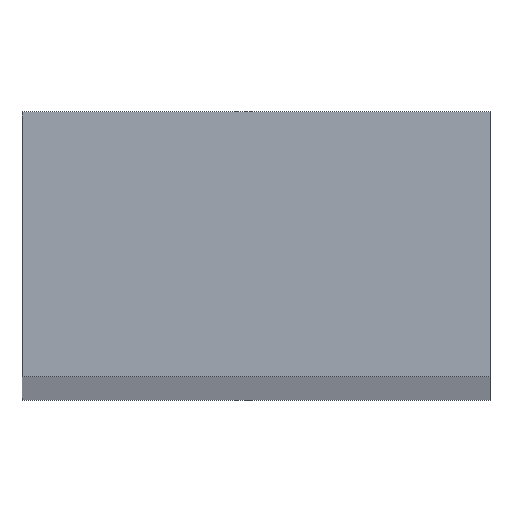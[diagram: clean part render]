
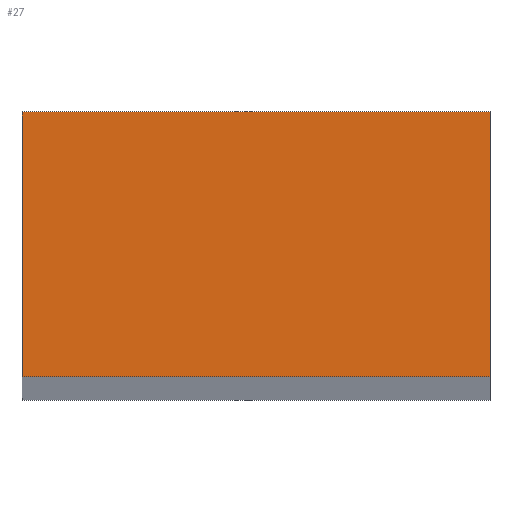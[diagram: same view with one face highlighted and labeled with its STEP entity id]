
A CAD part, top view. The second image highlights one B-rep face of the part: STEP entity #27.
In plain terms, the highlighted planar face has unit normal (0, 0, 1).
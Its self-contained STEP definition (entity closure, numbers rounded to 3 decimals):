
#2 = DIRECTION ( 'NONE',  ( 1., 0., 0. ) ) ;
#10 = VECTOR ( 'NONE', #181, 1000. ) ;
#14 = VERTEX_POINT ( 'NONE', #158 ) ;
#16 = EDGE_LOOP ( 'NONE', ( #123, #97, #209, #159 ) ) ;
#20 = VERTEX_POINT ( 'NONE', #69 ) ;
#27 = ADVANCED_FACE ( 'NONE', ( #86 ), #98, .T. ) ;
#37 = CARTESIAN_POINT ( 'NONE',  ( 2.65, 1.5, 150. ) ) ;
#38 = VERTEX_POINT ( 'NONE', #37 ) ;
#39 = CARTESIAN_POINT ( 'NONE',  ( -2.65, -1.5, 150. ) ) ;
#40 = EDGE_CURVE ( 'NONE', #20, #50, #126, .T. ) ;
#48 = CARTESIAN_POINT ( 'NONE',  ( 2.65, 1.5, 150. ) ) ;
#50 = VERTEX_POINT ( 'NONE', #39 ) ;
#54 = DIRECTION ( 'NONE',  ( 0., -1., 0. ) ) ;
#64 = LINE ( 'NONE', #137, #10 ) ;
#69 = CARTESIAN_POINT ( 'NONE',  ( -2.65, 1.5, 150. ) ) ;
#71 = DIRECTION ( 'NONE',  ( 0., 1., 0. ) ) ;
#83 = AXIS2_PLACEMENT_3D ( 'NONE', #94, #96, #2 ) ;
#86 = FACE_OUTER_BOUND ( 'NONE', #16, .T. ) ;
#94 = CARTESIAN_POINT ( 'NONE',  ( 2.65, -1.5, 150. ) ) ;
#96 = DIRECTION ( 'NONE',  ( 0., 0., 1. ) ) ;
#97 = ORIENTED_EDGE ( 'NONE', *, *, #215, .T. ) ;
#98 = PLANE ( 'NONE',  #83 ) ;
#102 = EDGE_CURVE ( 'NONE', #50, #14, #105, .T. ) ;
#105 = LINE ( 'NONE', #185, #110 ) ;
#110 = VECTOR ( 'NONE', #140, 1000. ) ;
#120 = VECTOR ( 'NONE', #71, 1000. ) ;
#123 = ORIENTED_EDGE ( 'NONE', *, *, #165, .T. ) ;
#126 = LINE ( 'NONE', #192, #161 ) ;
#137 = CARTESIAN_POINT ( 'NONE',  ( 2.65, 1.5, 150. ) ) ;
#140 = DIRECTION ( 'NONE',  ( 1., 0., 0. ) ) ;
#158 = CARTESIAN_POINT ( 'NONE',  ( 2.65, -1.5, 150. ) ) ;
#159 = ORIENTED_EDGE ( 'NONE', *, *, #102, .T. ) ;
#161 = VECTOR ( 'NONE', #54, 1000. ) ;
#162 = LINE ( 'NONE', #48, #120 ) ;
#165 = EDGE_CURVE ( 'NONE', #14, #38, #162, .T. ) ;
#181 = DIRECTION ( 'NONE',  ( -1., 0., 0. ) ) ;
#185 = CARTESIAN_POINT ( 'NONE',  ( -2.65, -1.5, 150. ) ) ;
#192 = CARTESIAN_POINT ( 'NONE',  ( -2.65, 1.5, 150. ) ) ;
#209 = ORIENTED_EDGE ( 'NONE', *, *, #40, .T. ) ;
#215 = EDGE_CURVE ( 'NONE', #38, #20, #64, .T. ) ;
